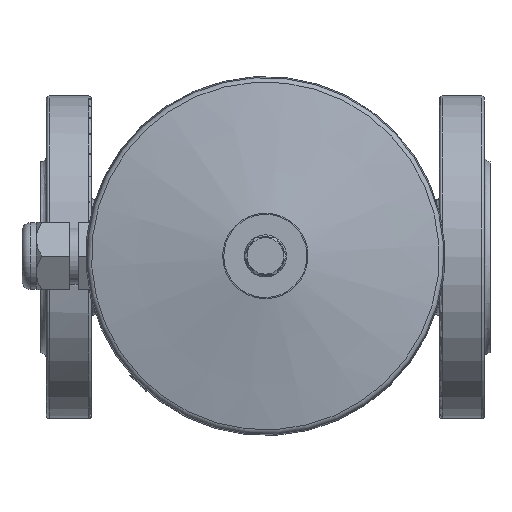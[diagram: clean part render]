
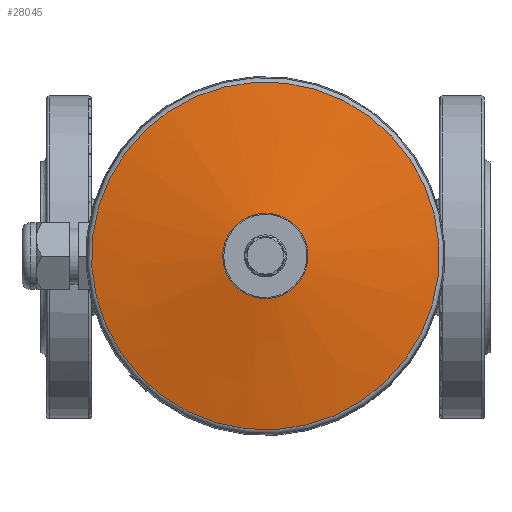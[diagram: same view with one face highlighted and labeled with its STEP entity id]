
A CAD part, top view. The second image highlights one B-rep face of the part: STEP entity #28045.
In plain terms, the highlighted conical face has half-angle 79.29 degrees and reference radius 38.57 mm.
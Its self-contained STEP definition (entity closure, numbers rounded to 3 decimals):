
#28014=CARTESIAN_POINT('',(49.874,-36.745,273.983));
#28015=VERTEX_POINT('',#28014);
#28016=CARTESIAN_POINT('',(0.,0.,273.983));
#28017=DIRECTION('',(0.,0.,-1.0));
#28018=DIRECTION('',(0.805,-0.593,0.));
#28019=AXIS2_PLACEMENT_3D('',#28016,#28017,#28018);
#28020=CIRCLE('',#28019,61.948);
#28021=EDGE_CURVE('',#28015,#28015,#28020,.T.);
#28026=CARTESIAN_POINT('',(0.,0.,278.404));
#28027=DIRECTION('',(0.,0.,-1.0));
#28028=DIRECTION('',(0.805,-0.593,0.));
#28029=AXIS2_PLACEMENT_3D('',#28026,#28027,#28028);
#28030=CONICAL_SURFACE('',#28029,38.57,79.29);
#28031=ORIENTED_EDGE('',*,*,#28021,.F.);
#28032=EDGE_LOOP('',(#28031));
#28033=FACE_OUTER_BOUND('',#28032,.T.);
#28034=CARTESIAN_POINT('',(12.231,-9.011,282.826));
#28035=VERTEX_POINT('',#28034);
#28036=CARTESIAN_POINT('',(0.,0.,282.826));
#28037=DIRECTION('',(0.,0.,-1.));
#28038=DIRECTION('',(0.805,-0.593,0.));
#28039=AXIS2_PLACEMENT_3D('',#28036,#28037,#28038);
#28040=CIRCLE('',#28039,15.192);
#28041=EDGE_CURVE('',#28035,#28035,#28040,.T.);
#28042=ORIENTED_EDGE('',*,*,#28041,.T.);
#28043=EDGE_LOOP('',(#28042));
#28044=FACE_BOUND('',#28043,.T.);
#28045=ADVANCED_FACE('',(#28033,#28044),#28030,.T.);
